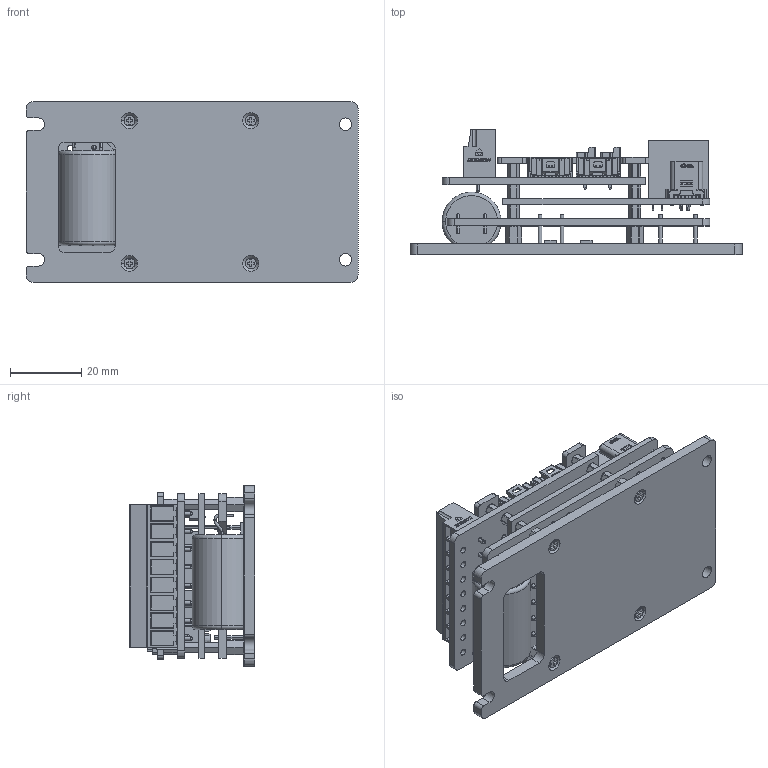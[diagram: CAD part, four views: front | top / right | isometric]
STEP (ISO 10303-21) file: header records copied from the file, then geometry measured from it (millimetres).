
FILE_DESCRIPTION((''),'2;1');
FILE_NAME('DS4-M-EC_ASM','2026-03-30T17:22:08',('Admin'),(''),'CREO PARAMETRIC BY PTC INC, 2020074','CREO PARAMETRIC BY PTC INC, 2020074','');
FILE_SCHEMA(('CONFIG_CONTROL_DESIGN'));
Length unit declared in the file: millimetre
Products named in the file (22): DS4-M-EC-DOWN-A; SUS-M2-5; PG-TSDSON-8-2_C66065-A6779-C_20; PIN-B; DS4-M-EC-DOWN_ASM; PCB-1; CU-M2-4-4; C16_25; PIN; PCB-1_ASM; PCB-2; RJ45; TYPE-C; PCB-2_ASM; PCB-3; 353620250; 5011902017; DG302-5_0-08P-1Y-00A_Z_H_; PCB-3_ASM; FM2X4; COVER-A-1-A; DS4-M-EC_ASM
Assembly tree (66 placements, depth 3):
  DS4-M-EC_ASM
    DS4-M-EC-DOWN_ASM
      DS4-M-EC-DOWN-A
      SUS-M2-5  x4
      PG-TSDSON-8-2_C66065-A6779-C_20  x8
      PIN-B  x9
    PCB-1_ASM
      PCB-1
      CU-M2-4-4  x4
      C16_25
      PIN  x6
    PCB-2_ASM
      PCB-2
      CU-M2-4-4  x4
      RJ45  x2
      TYPE-C
    PCB-3_ASM
      PCB-3
      CU-M2-4-4  x4
      353620250  x2
      5011902017  x3
      DG302-5_0-08P-1Y-00A_Z_H_
    FM2X4  x8
    COVER-A-1-A
Bounding box: 93 x 35.1 x 50.5 mm (x, y, z)
Volume: 45809.3 mm3; surface area: 47421.8 mm2
Topology: 77 solids, 93 shells, 5306 faces, 14412 edges, 9484 vertices
Faces by surface type: plane 4053, cylinder 859, torus 144, extrusion 89, cone 86, bspline 56, sphere 19
Entity records: 105725 total; most frequent: CARTESIAN_POINT 22533, ORIENTED_EDGE 17618, DIRECTION 16225, EDGE_CURVE 8811, VECTOR 7299, LINE 7210, VERTEX_POINT 5825, AXIS2_PLACEMENT_3D 4463
